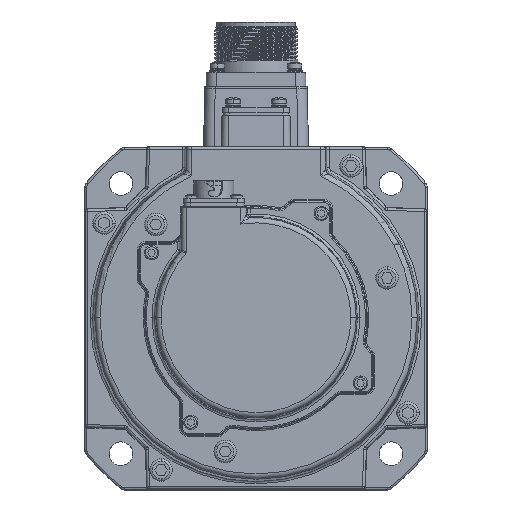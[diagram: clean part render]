
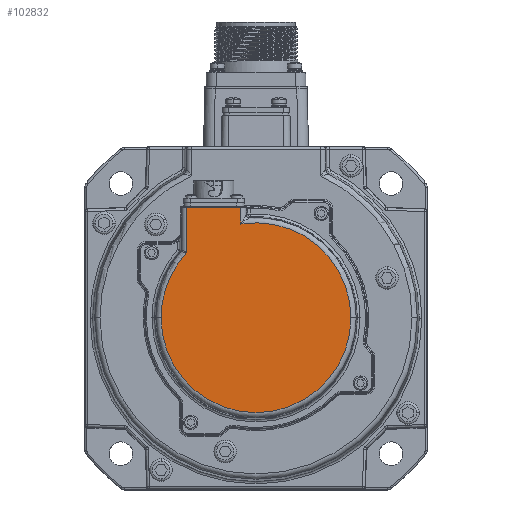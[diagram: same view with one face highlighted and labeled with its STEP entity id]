
A CAD part, top view. The second image highlights one B-rep face of the part: STEP entity #102832.
In plain terms, the highlighted planar face has unit normal (0, 0, 1).
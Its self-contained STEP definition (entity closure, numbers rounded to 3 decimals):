
#2807 = VECTOR ( 'NONE', #28781, 1000. ) ;
#7595 = CARTESIAN_POINT ( 'NONE',  ( -35.157, -56.273, -4.537 ) ) ;
#8398 = EDGE_CURVE ( 'NONE', #60122, #166725, #100911, .T. ) ;
#9837 = LINE ( 'NONE', #7595, #81388 ) ;
#12964 = DIRECTION ( 'NONE',  ( 0., 0., 1. ) ) ;
#15074 = EDGE_CURVE ( 'NONE', #166725, #46015, #105917, .T. ) ;
#15217 = CARTESIAN_POINT ( 'NONE',  ( -8.872, -14.523, -4.537 ) ) ;
#16192 = DIRECTION ( 'NONE',  ( 0., 0., 1. ) ) ;
#16738 = EDGE_CURVE ( 'NONE', #156977, #39583, #158522, .T. ) ;
#17041 = CARTESIAN_POINT ( 'NONE',  ( -14.587, -20.695, -4.537 ) ) ;
#23164 = VERTEX_POINT ( 'NONE', #35752 ) ;
#28781 = DIRECTION ( 'NONE',  ( -1., 0., 0. ) ) ;
#29437 = VECTOR ( 'NONE', #77630, 1000. ) ;
#30569 = ORIENTED_EDGE ( 'NONE', *, *, #158649, .T. ) ;
#34914 = DIRECTION ( 'NONE',  ( -1., 0., 0. ) ) ;
#35752 = CARTESIAN_POINT ( 'NONE',  ( -35.157, -31.624, -4.537 ) ) ;
#38411 = ORIENTED_EDGE ( 'NONE', *, *, #8398, .T. ) ;
#39583 = VERTEX_POINT ( 'NONE', #131736 ) ;
#46015 = VERTEX_POINT ( 'NONE', #150861 ) ;
#47621 = DIRECTION ( 'NONE',  ( 0., -1., 0. ) ) ;
#60122 = VERTEX_POINT ( 'NONE', #17041 ) ;
#61763 = EDGE_CURVE ( 'NONE', #23164, #156977, #109166, .T. ) ;
#68026 = CARTESIAN_POINT ( 'NONE',  ( -8.872, -56.273, -4.537 ) ) ;
#71794 = ORIENTED_EDGE ( 'NONE', *, *, #115724, .T. ) ;
#75493 = CARTESIAN_POINT ( 'NONE',  ( -44.907, -56.273, -4.537 ) ) ;
#77630 = DIRECTION ( 'NONE',  ( 0., 1., 0. ) ) ;
#81143 = CARTESIAN_POINT ( 'NONE',  ( -14.587, -56.273, -4.537 ) ) ;
#81388 = VECTOR ( 'NONE', #47621, 1000. ) ;
#81569 = DIRECTION ( 'NONE',  ( -1., 0., 0. ) ) ;
#93514 = CARTESIAN_POINT ( 'NONE',  ( -8.872, -56.273, -4.537 ) ) ;
#96731 = CARTESIAN_POINT ( 'NONE',  ( -8.872, -56.273, -4.537 ) ) ;
#96773 = AXIS2_PLACEMENT_3D ( 'NONE', #155261, #115428, #34914 ) ;
#100911 = LINE ( 'NONE', #81143, #29437 ) ;
#102440 = CARTESIAN_POINT ( 'NONE',  ( -14.587, -14.523, -4.537 ) ) ;
#102832 = ADVANCED_FACE ( 'NONE', ( #113255 ), #168771, .T. ) ;
#105917 = LINE ( 'NONE', #15217, #2807 ) ;
#107030 = DIRECTION ( 'NONE',  ( -1., 0., 0. ) ) ;
#109166 = CIRCLE ( 'NONE', #153235, 36.035 ) ;
#110251 = DIRECTION ( 'NONE',  ( -1., 0., 0. ) ) ;
#113255 = FACE_OUTER_BOUND ( 'NONE', #140006, .T. ) ;
#115428 = DIRECTION ( 'NONE',  ( 0., 0., 1. ) ) ;
#115724 = EDGE_CURVE ( 'NONE', #39583, #60122, #116418, .T. ) ;
#116418 = CIRCLE ( 'NONE', #166728, 36.035 ) ;
#119177 = ORIENTED_EDGE ( 'NONE', *, *, #16738, .T. ) ;
#127082 = AXIS2_PLACEMENT_3D ( 'NONE', #68026, #161928, #81569 ) ;
#131736 = CARTESIAN_POINT ( 'NONE',  ( 27.163, -56.273, -4.537 ) ) ;
#135162 = ORIENTED_EDGE ( 'NONE', *, *, #61763, .T. ) ;
#140006 = EDGE_LOOP ( 'NONE', ( #38411, #148800, #30569, #135162, #119177, #71794 ) ) ;
#148800 = ORIENTED_EDGE ( 'NONE', *, *, #15074, .T. ) ;
#150861 = CARTESIAN_POINT ( 'NONE',  ( -35.157, -14.523, -4.537 ) ) ;
#153235 = AXIS2_PLACEMENT_3D ( 'NONE', #93514, #12964, #107030 ) ;
#155261 = CARTESIAN_POINT ( 'NONE',  ( -8.872, -56.273, -4.537 ) ) ;
#156977 = VERTEX_POINT ( 'NONE', #75493 ) ;
#158522 = CIRCLE ( 'NONE', #127082, 36.035 ) ;
#158649 = EDGE_CURVE ( 'NONE', #46015, #23164, #9837, .T. ) ;
#161928 = DIRECTION ( 'NONE',  ( 0., 0., 1. ) ) ;
#166725 = VERTEX_POINT ( 'NONE', #102440 ) ;
#166728 = AXIS2_PLACEMENT_3D ( 'NONE', #96731, #16192, #110251 ) ;
#168771 = PLANE ( 'NONE',  #96773 ) ;
